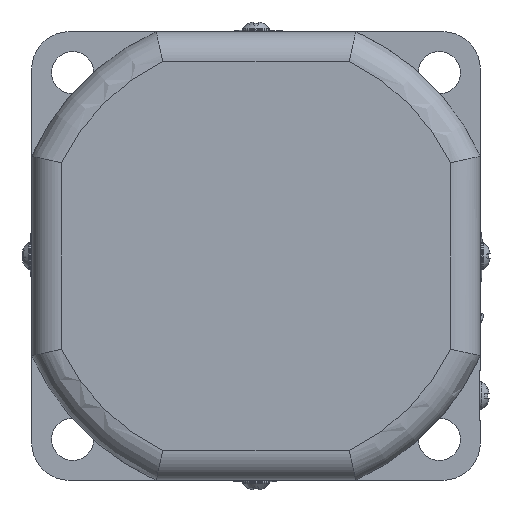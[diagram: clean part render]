
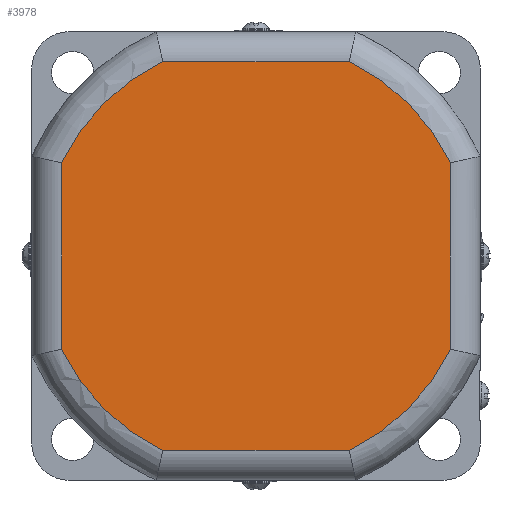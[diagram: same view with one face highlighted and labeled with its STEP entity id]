
A CAD part, left-side view. The second image highlights one B-rep face of the part: STEP entity #3978.
In plain terms, the highlighted planar face has unit normal (-1, 0, 0).
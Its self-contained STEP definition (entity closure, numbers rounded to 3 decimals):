
#216=LINE('',#6291,#516);
#219=LINE('',#6311,#519);
#220=LINE('',#6364,#520);
#221=LINE('',#6381,#521);
#516=VECTOR('',#4843,37.393);
#519=VECTOR('',#4848,37.393);
#520=VECTOR('',#4863,37.393);
#521=VECTOR('',#4866,37.393);
#951=FACE_OUTER_BOUND('',#1213,.T.);
#1213=EDGE_LOOP('',(#2804,#2805,#2806,#2807,#2808,#2809,#2810,#2811));
#1454=CIRCLE('',#4256,43.25);
#1455=CIRCLE('',#4260,43.25);
#1458=CIRCLE('',#4264,43.25);
#1459=CIRCLE('',#4268,43.25);
#1682=VERTEX_POINT('',#6241);
#1684=VERTEX_POINT('',#6258);
#1686=VERTEX_POINT('',#6276);
#1688=VERTEX_POINT('',#6295);
#1689=VERTEX_POINT('',#6313);
#1690=VERTEX_POINT('',#6331);
#1691=VERTEX_POINT('',#6349);
#1692=VERTEX_POINT('',#6366);
#2101=EDGE_CURVE('',#1684,#1682,#1454,.T.);
#2103=EDGE_CURVE('',#1686,#1684,#216,.T.);
#2107=EDGE_CURVE('',#1682,#1688,#219,.T.);
#2109=EDGE_CURVE('',#1689,#1686,#1455,.T.);
#2113=EDGE_CURVE('',#1688,#1690,#1458,.T.);
#2115=EDGE_CURVE('',#1691,#1689,#220,.T.);
#2117=EDGE_CURVE('',#1690,#1692,#221,.T.);
#2118=EDGE_CURVE('',#1692,#1691,#1459,.T.);
#2804=ORIENTED_EDGE('',*,*,#2117,.F.);
#2805=ORIENTED_EDGE('',*,*,#2113,.F.);
#2806=ORIENTED_EDGE('',*,*,#2107,.F.);
#2807=ORIENTED_EDGE('',*,*,#2101,.F.);
#2808=ORIENTED_EDGE('',*,*,#2103,.F.);
#2809=ORIENTED_EDGE('',*,*,#2109,.F.);
#2810=ORIENTED_EDGE('',*,*,#2115,.F.);
#2811=ORIENTED_EDGE('',*,*,#2118,.F.);
#3566=PLANE('',#4270);
#3978=ADVANCED_FACE('',(#951),#3566,.F.);
#4256=AXIS2_PLACEMENT_3D('',#6273,#4839,#4840);
#4260=AXIS2_PLACEMENT_3D('',#6328,#4851,#4852);
#4264=AXIS2_PLACEMENT_3D('',#6347,#4859,#4860);
#4268=AXIS2_PLACEMENT_3D('',#6383,#4869,#4870);
#4270=AXIS2_PLACEMENT_3D('',#6385,#4873,#4874);
#4839=DIRECTION('center_axis',(1.,0.,0.));
#4840=DIRECTION('ref_axis',(0.,0.707,0.707));
#4843=DIRECTION('',(0.,0.,1.));
#4848=DIRECTION('',(0.,-1.,0.));
#4851=DIRECTION('center_axis',(1.,0.,0.));
#4852=DIRECTION('ref_axis',(0.,0.707,-0.707));
#4859=DIRECTION('center_axis',(1.,0.,0.));
#4860=DIRECTION('ref_axis',(0.,-0.707,0.707));
#4863=DIRECTION('',(0.,1.,0.));
#4866=DIRECTION('',(0.,0.,-1.));
#4869=DIRECTION('center_axis',(1.,0.,0.));
#4870=DIRECTION('ref_axis',(0.,-0.707,-0.707));
#4873=DIRECTION('center_axis',(1.,0.,0.));
#4874=DIRECTION('ref_axis',(0.,0.,1.));
#6241=CARTESIAN_POINT('',(-58.3,18.697,39.));
#6258=CARTESIAN_POINT('',(-58.3,39.,18.697));
#6273=CARTESIAN_POINT('Origin',(-58.3,0.,
0.));
#6276=CARTESIAN_POINT('',(-58.3,39.,-18.697));
#6291=CARTESIAN_POINT('',(-58.3,39.,-18.697));
#6295=CARTESIAN_POINT('',(-58.3,-18.697,39.));
#6311=CARTESIAN_POINT('',(-58.3,18.697,39.));
#6313=CARTESIAN_POINT('',(-58.3,18.697,-39.));
#6328=CARTESIAN_POINT('Origin',(-58.3,0.,
0.));
#6331=CARTESIAN_POINT('',(-58.3,-39.,18.697));
#6347=CARTESIAN_POINT('Origin',(-58.3,0.,
0.));
#6349=CARTESIAN_POINT('',(-58.3,-18.697,-39.));
#6364=CARTESIAN_POINT('',(-58.3,-18.697,-39.));
#6366=CARTESIAN_POINT('',(-58.3,-39.,-18.697));
#6381=CARTESIAN_POINT('',(-58.3,-39.,18.697));
#6383=CARTESIAN_POINT('Origin',(-58.3,0.,
0.));
#6385=CARTESIAN_POINT('Origin',(-58.3,0.,
0.));
